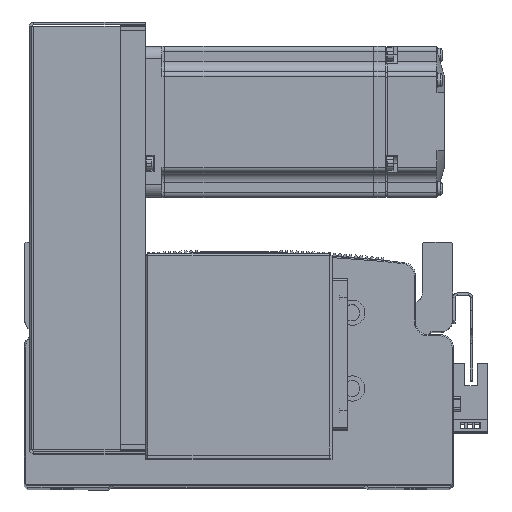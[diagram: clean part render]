
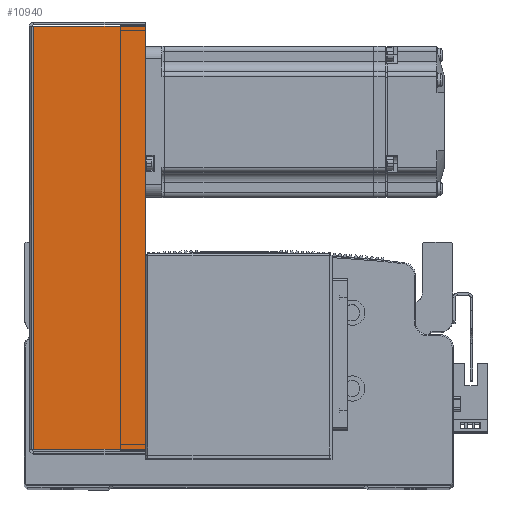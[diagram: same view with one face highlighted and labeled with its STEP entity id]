
A CAD part, top view. The second image highlights one B-rep face of the part: STEP entity #10940.
In plain terms, the highlighted planar face has unit normal (0, 0, 1) as drawn and (0, 0, -1) by its records, which use the part's own axes.
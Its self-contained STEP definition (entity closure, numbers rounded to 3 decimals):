
#10940 = ADVANCED_FACE ( 'NONE', ( #41209 ), #46889, .F. ) ;
#13666 = VERTEX_POINT ( 'NONE', #74299 ) ;
#13689 = VERTEX_POINT ( 'NONE', #74274 ) ;
#13730 = VERTEX_POINT ( 'NONE', #74319 ) ;
#13757 = VERTEX_POINT ( 'NONE', #74323 ) ;
#21604 = ORIENTED_EDGE ( 'NONE', *, *, #66534, .F. ) ;
#24199 = AXIS2_PLACEMENT_3D ( 'NONE', #46929, #46954, #46971 ) ;
#41209 = FACE_OUTER_BOUND ( 'NONE', #47644, .T. ) ;
#46889 = PLANE ( 'NONE',  #24199 ) ;
#46929 = CARTESIAN_POINT ( 'NONE',  ( 0., 0., -40.5 ) ) ;
#46954 = DIRECTION ( 'NONE',  ( 0., 0., 1. ) ) ;
#46971 = DIRECTION ( 'NONE',  ( 0., -1., 0. ) ) ;
#47644 = EDGE_LOOP ( 'NONE', ( #21604, #53297, #53375, #53289 ) ) ;
#48877 = LINE ( 'NONE', #53620, #48917 ) ;
#48917 = VECTOR ( 'NONE', #53642, 1000. ) ;
#48967 = VECTOR ( 'NONE', #54108, 1000. ) ;
#48983 = LINE ( 'NONE', #54092, #48967 ) ;
#48992 = VECTOR ( 'NONE', #54295, 1000. ) ;
#49008 = LINE ( 'NONE', #54244, #49038 ) ;
#49023 = LINE ( 'NONE', #54215, #48992 ) ;
#49038 = VECTOR ( 'NONE', #54265, 1000. ) ;
#53289 = ORIENTED_EDGE ( 'NONE', *, *, #66597, .F. ) ;
#53297 = ORIENTED_EDGE ( 'NONE', *, *, #66615, .T. ) ;
#53375 = ORIENTED_EDGE ( 'NONE', *, *, #66620, .T. ) ;
#53620 = CARTESIAN_POINT ( 'NONE',  ( 0., 0.737, -40.5 ) ) ;
#53642 = DIRECTION ( 'NONE',  ( 1., 0., 0. ) ) ;
#54092 = CARTESIAN_POINT ( 'NONE',  ( 83.793, 0., -40.5 ) ) ;
#54108 = DIRECTION ( 'NONE',  ( 0., 1., 0. ) ) ;
#54215 = CARTESIAN_POINT ( 'NONE',  ( 84.5, 45., -40.5 ) ) ;
#54244 = CARTESIAN_POINT ( 'NONE',  ( -83.793, 0., -40.5 ) ) ;
#54265 = DIRECTION ( 'NONE',  ( 0., 1., 0. ) ) ;
#54295 = DIRECTION ( 'NONE',  ( 1., 0., 0. ) ) ;
#66534 = EDGE_CURVE ( 'NONE', #13730, #13689, #48877, .T. ) ;
#66597 = EDGE_CURVE ( 'NONE', #13689, #13757, #48983, .T. ) ;
#66615 = EDGE_CURVE ( 'NONE', #13730, #13666, #49008, .T. ) ;
#66620 = EDGE_CURVE ( 'NONE', #13666, #13757, #49023, .T. ) ;
#74274 = CARTESIAN_POINT ( 'NONE',  ( 83.793, 0.737, -40.5 ) ) ;
#74299 = CARTESIAN_POINT ( 'NONE',  ( -83.793, 45., -40.5 ) ) ;
#74319 = CARTESIAN_POINT ( 'NONE',  ( -83.793, 0.737, -40.5 ) ) ;
#74323 = CARTESIAN_POINT ( 'NONE',  ( 83.793, 45., -40.5 ) ) ;
